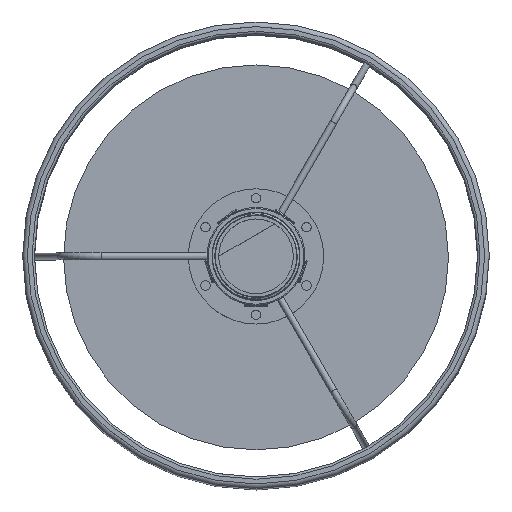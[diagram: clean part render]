
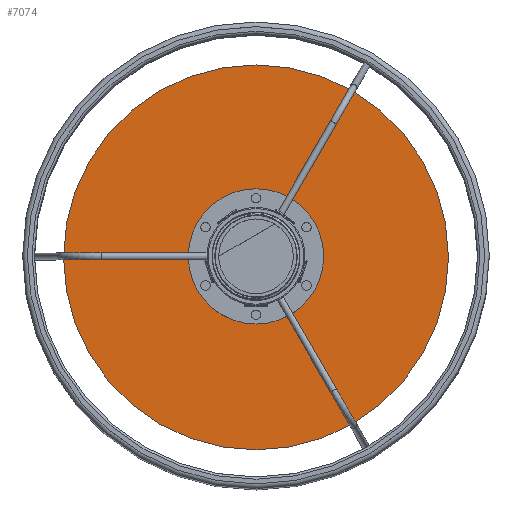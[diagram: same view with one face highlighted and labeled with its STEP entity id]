
A CAD part, top view. The second image highlights one B-rep face of the part: STEP entity #7074.
In plain terms, the highlighted planar face has unit normal (0, 0, 1).
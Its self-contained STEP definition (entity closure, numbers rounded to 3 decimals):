
#1076=PLANE('',#7458);
#2142=FACE_OUTER_BOUND('',#2604,.T.);
#2604=EDGE_LOOP('',(#6559));
#2726=CIRCLE('',#7456,82.5);
#3389=VERTEX_POINT('',#26509);
#4450=EDGE_CURVE('',#3389,#3389,#2726,.T.);
#6559=ORIENTED_EDGE('',*,*,#4450,.T.);
#7074=ADVANCED_FACE('',(#2142),#1076,.T.);
#7456=AXIS2_PLACEMENT_3D('',#26510,#8441,#8442);
#7458=AXIS2_PLACEMENT_3D('',#26514,#8446,#8447);
#8441=DIRECTION('center_axis',(0.,0.,1.));
#8442=DIRECTION('ref_axis',(1.,0.,0.));
#8446=DIRECTION('center_axis',(0.,0.,1.));
#8447=DIRECTION('ref_axis',(1.,0.,0.));
#26509=CARTESIAN_POINT('',(-82.5,0.,-167.));
#26510=CARTESIAN_POINT('Origin',(0.,0.,-167.));
#26514=CARTESIAN_POINT('Origin',(0.,0.,-167.));
